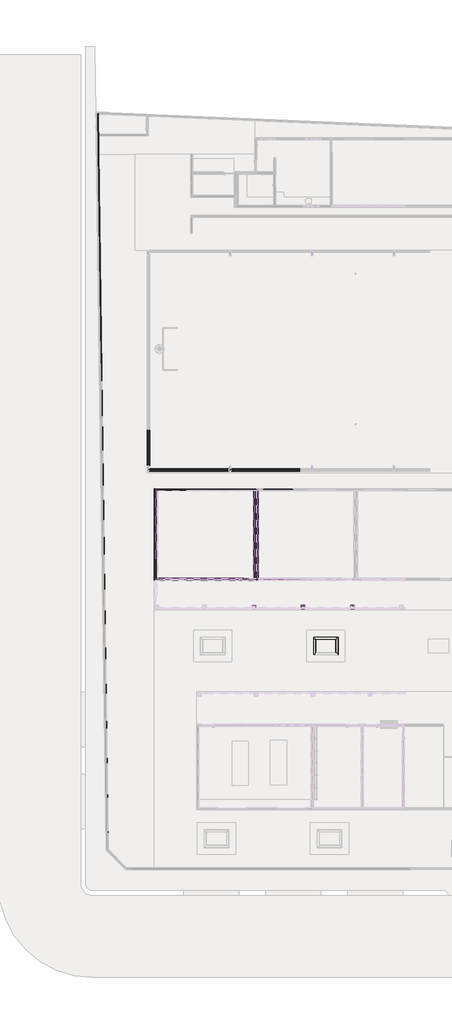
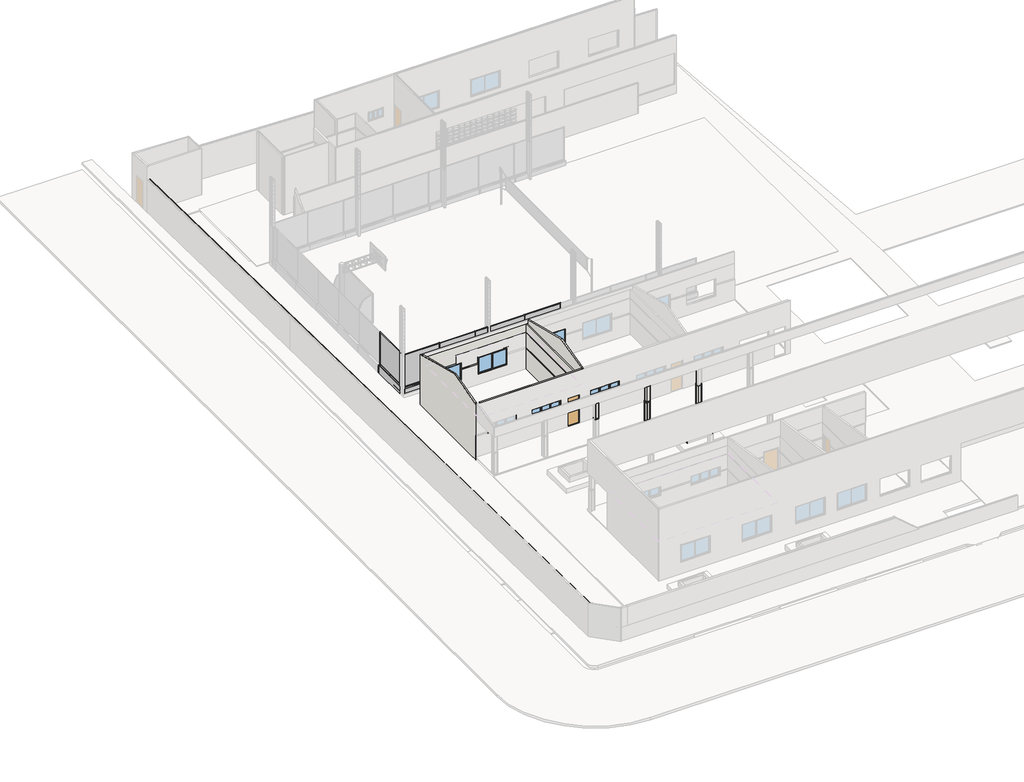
# One storey, part 7 of 28: 58 walls, 6 plates, 5 windows, 2 doors.
"""IFC4 building model written with IfcOpenShell, lengths in millimetres."""

from ifc_helpers import new_model, si_unit, frame, origin, origin_with_axes, place, context, project, spatial, polyline, outline, extrude, faceted_brep, transform, mapped, element, save
from components import door_29174598, pf15_l82cm_5bfc7586, plate_c8864c2c, plate_0e4e2798, window_2x1_20x1x10_9e9748dd, window_2x60x220_bcaba8dd

model = new_model("IFC4")

# Units and contexts
model_context = context("Model", 3, world=origin())
ifc_project = project(units=[si_unit("LENGTHUNIT", "METRE", prefix="MILLI")], contexts=[model_context])

# Site, building, storey
site = spatial("IfcSite", under=ifc_project)
building = spatial("IfcBuilding", under=site)
storey = spatial("IfcBuildingStorey", under=building, Name="Térreo", Elevation=0.0)

# Doors
placement = place(None, origin())
door_shape = door_29174598(model_context)
element("IfcDoor", 1, ObjectType="FDE_SO_Soleiras1 : SO14_SoleiraRampadaDesnívelAté2cm_L=14cm_Cimentado 2", at=placement, inside=storey, context=model_context, shape_type="MappedRepresentation", body=[
    mapped(door_shape, transform((-51387.0, 21250.0, 200.0), x_axis=(1.0, 0.0, 0.0), y_axis=(0.0, 1.0, 0.0), z_axis=(0.0, 0.0, 1.0))),
])
pf15_l82cm_shape = pf15_l82cm_5bfc7586(model_context)
element("IfcDoor", 2, ObjectType="FDE_PF15_PF16_PF17_PortaemChapadeFerro : PF15_L82cm", at=placement, inside=storey, context=model_context, shape_type="MappedRepresentation", body=[
    mapped(pf15_l82cm_shape, transform((-51387.0, 21255.0, 200.0), x_axis=(1.0, 0.0, 0.0), y_axis=(0.0, 1.0, 0.0), z_axis=(0.0, 0.0, 1.0))),
])

# Plates
plate_shape = plate_c8864c2c(model_context)
element("IfcPlate", 3, ObjectType="FDE_FQ01_FechamentoParaQuadradeEsportes : FQ01_LateraisSapata", at=placement, inside=storey, context=model_context, shape_type="MappedRepresentation", body=[
    mapped(plate_shape, transform((-58665.0, 30818.7010512, -350.0), x_axis=(0.0, 1.0, 0.0), y_axis=(-1.0, 0.0, 0.0), z_axis=(0.0, 0.0, 1.0))),
])
element("IfcPlate", 4, ObjectType="FDE_FQ01_FechamentoParaQuadradeEsportes : FQ01_LateraisSapata", at=placement, inside=storey, context=model_context, shape_type="MappedRepresentation", body=[
    mapped(plate_shape, transform((-57379.9999998, 29253.7010511, -350.0), x_axis=(1.0, 0.0, 0.0), y_axis=(0.0, 1.0, 0.0), z_axis=(0.0, 0.0, 1.0))),
])
element("IfcPlate", 5, ObjectType="FDE_FQ01_FechamentoParaQuadradeEsportes : FQ01_LateraisSapata", at=placement, inside=storey, context=model_context, shape_type="MappedRepresentation", body=[
    mapped(plate_shape, transform((-54879.9999997, 29253.7010511, -350.0), x_axis=(1.0, 0.0, 0.0), y_axis=(0.0, 1.0, 0.0), z_axis=(0.0, 0.0, 1.0))),
])
element("IfcPlate", 6, ObjectType="FDE_FQ01_FechamentoParaQuadradeEsportes : FQ01_LateraisSapata", at=placement, inside=storey, context=model_context, shape_type="MappedRepresentation", body=[
    mapped(plate_shape, transform((-51414.9999998, 29253.7010511, -350.0), x_axis=(1.0, 0.0, 0.0), y_axis=(0.0, 1.0, 0.0), z_axis=(0.0, 0.0, 1.0))),
])
element("IfcPlate", 7, ObjectType="FDE_FQ01_FechamentoParaQuadradeEsportes : FQ01_LateraisSapata", at=placement, inside=storey, context=model_context, shape_type="MappedRepresentation", body=[
    mapped(plate_shape, transform((-48914.9999997, 29253.7010511, -350.0), x_axis=(1.0, 0.0, 0.0), y_axis=(0.0, 1.0, 0.0), z_axis=(0.0, 0.0, 1.0))),
])
plate_2_shape = plate_0e4e2798(model_context)
element("IfcPlate", 8, ObjectType="FDE_FQ01_FechamentoParaQuadradeEsportes : FQ01_LateraisSapata", at=placement, inside=storey, context=model_context, shape_type="MappedRepresentation", body=[
    mapped(plate_2_shape, transform((-53189.9999998, 29253.7010511, -350.0), x_axis=(1.0, 0.0, 0.0), y_axis=(0.0, 1.0, 0.0), z_axis=(0.0, 0.0, 1.0))),
])

# Walls
element("IfcWall", 9, ObjectType="FDE_S712_AlvenariadeTijoloCerâmico/Baiano_Alvenaria_9cm - Existente", at=placement, inside=storey, context=model_context, shape_type="Brep", body=[
    faceted_brep([(-58130.0, 21210.0, 3500.0), (-58130.0, 21210.0, 0.0), (-58130.0, 21300.0, 0.0), (-58130.0, 27780.0, 0.0), (-58130.0, 27870.0, 0.0), (-58130.0, 27870.0, 3500.0), (-58130.0, 27780.0, 3500.0), (-58130.0, 21300.0, 3500.0), (-58220.0, 21210.0, 0.0), (-58220.0, 21210.0, 3500.0), (-58220.0, 27870.0, 3500.0), (-58220.0, 27870.0, 0.0)], [[[0, 1, 2, 3, 4, 5, 6, 7]], [[8, 9, 10, 11]], [[4, 3, 2, 1, 8, 11]], [[0, 7, 6, 5, 10, 9]], [[5, 4, 11, 10]], [[0, 9, 8, 1]]]),
])
element("IfcWall", 10, ObjectType="FDE_S712_AlvenariadeTijoloCerâmico/Baiano_Alvenaria_9cm - Existente", at=placement, inside=storey, context=model_context, shape_type="Brep", body=[
    faceted_brep([(-58130.0, 27780.0, 0.0), (-50920.0, 27780.0, 0.0), (-50830.0, 27780.0, 0.0), (-50830.0, 27780.0, 3500.0), (-50920.0, 27780.0, 3500.0), (-58130.0, 27780.0, 3500.0), (-54315.0, 27780.0, 965.0), (-54315.0, 27780.0, 2235.0), (-52245.0, 27780.0, 2235.0), (-52245.0, 27780.0, 965.0), (-57515.0, 27780.0, 965.0), (-57515.0, 27780.0, 2235.0), (-55445.0, 27780.0, 2235.0), (-55445.0, 27780.0, 965.0), (-50830.0, 27870.0, 0.0), (-58130.0, 27870.0, 0.0), (-58130.0, 27870.0, 3500.0), (-50830.0, 27870.0, 3500.0), (-54315.0, 27870.0, 2235.0), (-54315.0, 27870.0, 965.0), (-52245.0, 27870.0, 965.0), (-52245.0, 27870.0, 2235.0), (-57515.0, 27870.0, 2235.0), (-57515.0, 27870.0, 965.0), (-55445.0, 27870.0, 965.0), (-55445.0, 27870.0, 2235.0)], [[[0, 1, 2, 3, 4, 5], [6, 7, 8, 9], [10, 11, 12, 13]], [[14, 15, 16, 17], [18, 19, 20, 21], [22, 23, 24, 25]], [[2, 1, 0, 15, 14]], [[5, 4, 3, 17, 16]], [[3, 2, 14, 17]], [[5, 16, 15, 0]], [[6, 19, 18, 7]], [[7, 18, 21, 8]], [[8, 21, 20, 9]], [[19, 6, 9, 20]], [[10, 23, 22, 11]], [[11, 22, 25, 12]], [[12, 25, 24, 13]], [[23, 10, 13, 24]]]),
])
element("IfcWall", 11, ObjectType="FDE_S712_AlvenariadeTijoloCerâmico/Baiano_Alvenaria_9cm - Existente", at=placement, inside=storey, context=model_context, shape_type="Brep", body=[
    faceted_brep([(-50920.0, 27780.0, 0.0), (-50920.0, 21300.0, 0.0), (-50920.0, 21210.0, 0.0), (-50920.0, 21210.0, 3500.0), (-50920.0, 21300.0, 3500.0), (-50920.0, 27780.0, 3500.0), (-50830.0, 27780.0, 0.0), (-50830.0, 27780.0, 3500.0), (-50830.0, 21300.0, 3500.0), (-50830.0, 21210.0, 3500.0), (-50830.0, 21210.0, 0.0), (-50830.0, 21300.0, 0.0)], [[[0, 1, 2, 3, 4, 5]], [[6, 7, 8, 9, 10, 11]], [[2, 1, 0, 6, 11, 10]], [[5, 4, 3, 9, 8, 7]], [[3, 2, 10, 9]], [[0, 5, 7, 6]]]),
])
element("IfcWall", 12, ObjectType="FDE_S712_AlvenariadeTijoloCerâmico/Baiano_Alvenaria_9cm - Existente", at=placement, inside=storey, context=model_context, shape_type="Brep", body=[
    faceted_brep([(-50920.0, 21300.0, 0.0), (-58130.0, 21300.0, 0.0), (-58130.0, 21300.0, 1824.9435125), (-58130.0, 21300.0, 2900.0), (-58130.0, 21300.0, 3500.0), (-50920.0, 21300.0, 3500.0), (-50970.0, 21300.0, 200.0), (-50970.0, 21300.0, 1824.9435125), (-50970.0, 21300.0, 2312.0), (-51804.0, 21300.0, 2312.0), (-51804.0, 21300.0, 1824.9435125), (-51804.0, 21300.0, 200.0), (-52269.0, 21300.0, 1665.0), (-52269.0, 21300.0, 1824.9435125), (-52269.0, 21300.0, 2335.0), (-54339.0, 21300.0, 2335.0), (-54339.0, 21300.0, 1824.9435125), (-54339.0, 21300.0, 1665.0), (-55415.0, 21300.0, 1665.0), (-55415.0, 21300.0, 1824.9435125), (-55415.0, 21300.0, 2335.0), (-57485.0, 21300.0, 2335.0), (-57485.0, 21300.0, 1824.9435125), (-57485.0, 21300.0, 1665.0), (-58130.0, 21210.0, 0.0), (-50920.0, 21210.0, 0.0), (-50920.0, 21210.0, 3500.0), (-58130.0, 21210.0, 3500.0), (-50970.0, 21210.0, 2312.0), (-50970.0, 21210.0, 1824.9435125), (-50970.0, 21210.0, 200.0), (-51804.0, 21210.0, 200.0), (-51804.0, 21210.0, 1824.9435125), (-51804.0, 21210.0, 2312.0), (-52269.0, 21210.0, 2335.0), (-52269.0, 21210.0, 1824.9435125), (-52269.0, 21210.0, 1665.0), (-54339.0, 21210.0, 1665.0), (-54339.0, 21210.0, 1824.9435125), (-54339.0, 21210.0, 2335.0), (-55415.0, 21210.0, 2335.0), (-55415.0, 21210.0, 1824.9435125), (-55415.0, 21210.0, 1665.0), (-57485.0, 21210.0, 1665.0), (-57485.0, 21210.0, 1824.9435125), (-57485.0, 21210.0, 2335.0)], [[[0, 1, 2, 3, 4, 5], [6, 7, 8, 9, 10, 11], [12, 13, 14, 15, 16, 17], [18, 19, 20, 21, 22, 23]], [[24, 25, 26, 27], [28, 29, 30, 31, 32, 33], [34, 35, 36, 37, 38, 39], [40, 41, 42, 43, 44, 45]], [[1, 0, 25, 24]], [[5, 4, 27, 26]], [[0, 5, 26, 25]], [[6, 30, 29, 28, 8, 7]], [[8, 28, 33, 9]], [[9, 33, 32, 31, 11, 10]], [[30, 6, 11, 31]], [[34, 14, 13, 12, 36, 35]], [[14, 34, 39, 15]], [[15, 39, 38, 37, 17, 16]], [[17, 37, 36, 12]], [[18, 42, 41, 40, 20, 19]], [[20, 40, 45, 21]], [[21, 45, 44, 43, 23, 22]], [[42, 18, 23, 43]], [[1, 24, 27, 4, 3, 2]]]),
])
element("IfcWall", 13, ObjectType="FDE_S712_AlvenariadeTijoloCerâmico/Baiano_Alvenaria_9cm - Existente", at=placement, inside=storey, context=model_context, shape_type="Brep", body=[
    faceted_brep([(-50680.0, 21210.0, 0.0), (-50680.0, 21300.0, 0.0), (-50680.0, 21330.0, 0.0), (-50680.0, 27779.9999994, 0.0), (-50680.0, 27779.9999994, 3767.0080278), (-50680.0, 23811.6315073, 4759.1001508), (-50680.0, 21300.0, 4131.192274), (-50680.0, 21210.0, 4108.692274), (-50770.0, 21210.0, 0.0), (-50770.0, 21210.0, 4108.692274), (-50770.0, 21300.0, 4131.192274), (-50770.0, 23811.6315073, 4759.1001508), (-50770.0, 27779.9999994, 3767.0080278), (-50770.0, 27779.9999994, 0.0), (-50770.0, 21300.0, 0.0)], [[[0, 1, 2, 3, 4, 5, 6, 7]], [[8, 9, 10, 11, 12, 13, 14]], [[3, 2, 1, 0, 8, 14, 13]], [[4, 3, 13, 12]], [[0, 7, 9, 8]], [[7, 6, 5, 11, 10, 9]], [[5, 4, 12, 11]]]),
])
element("IfcWall", 14, ObjectType="FDE_S712_AlvenariadeTijoloCerâmico/Baiano_Alvenaria_9cm - Existente", at=placement, inside=storey, context=model_context, shape_type="SweptSolid", body=[
    extrude(outline(polyline([(21330.0, 0.0), (21330.0, 4138.692274), (23811.6315073, 4759.1001508), (27780.0, 3767.0080277), (27780.0, 0.0), (21330.0, 0.0)])), frame((-58220.0, 0.0, 0.0), z_axis=(1.0, 0.0, 0.0), x_axis=(0.0, 1.0, 0.0)), (0.0, 0.0, 1.0), 90.0),
])
element("IfcWall", 15, ObjectType="FDE_S712_AlvenariadeTijoloCerâmico/Baiano_Alvenaria_9cm - Existente", at=placement, inside=storey, context=model_context, shape_type="Brep", body=[
    faceted_brep([(-50770.0, 21300.0, 0.0), (-57950.0, 21300.0, 0.0), (-57950.0, 21300.0, 4131.192274), (-50770.0, 21300.0, 4131.192274), (-50770.0, 21300.0, 1824.9435125), (-50770.0, 21300.0, 1731.0528047), (-50770.0, 21300.0, 220.0), (-50970.0, 21300.0, 200.0), (-50970.0, 21300.0, 220.0), (-50970.0, 21300.0, 1731.0528047), (-50970.0, 21300.0, 1824.9435125), (-50970.0, 21300.0, 2312.0), (-51804.0, 21300.0, 2312.0), (-51804.0, 21300.0, 1824.9435125), (-51804.0, 21300.0, 1731.0528047), (-51804.0, 21300.0, 220.0), (-51804.0, 21300.0, 200.0), (-52269.0, 21300.0, 1665.0), (-52269.0, 21300.0, 1731.0528047), (-52269.0, 21300.0, 1824.9435125), (-52269.0, 21300.0, 2335.0), (-54339.0, 21300.0, 2335.0), (-54339.0, 21300.0, 1824.9435125), (-54339.0, 21300.0, 1731.0528047), (-54339.0, 21300.0, 1665.0), (-55415.0, 21300.0, 1665.0), (-55415.0, 21300.0, 1731.0528047), (-55415.0, 21300.0, 1824.9435125), (-55415.0, 21300.0, 2335.0), (-57485.0, 21300.0, 2335.0), (-57485.0, 21300.0, 1731.0528047), (-57485.0, 21300.0, 1665.0), (-57950.0, 21210.0, 0.0), (-50770.0, 21210.0, 0.0), (-50770.0, 21210.0, 4108.692274), (-57950.0, 21210.0, 4108.692274), (-52269.0, 21210.0, 1665.0), (-54339.0, 21210.0, 1665.0), (-54339.0, 21210.0, 1731.0528047), (-54339.0, 21210.0, 1824.9435125), (-54339.0, 21210.0, 2335.0), (-52269.0, 21210.0, 2335.0), (-52269.0, 21210.0, 1824.9435125), (-52269.0, 21210.0, 1731.0528047), (-55415.0, 21210.0, 1665.0), (-57485.0, 21210.0, 1665.0), (-57485.0, 21210.0, 1731.0528047), (-57485.0, 21210.0, 1824.9435125), (-57485.0, 21210.0, 2335.0), (-55415.0, 21210.0, 2335.0), (-55415.0, 21210.0, 1824.9435125), (-55415.0, 21210.0, 1731.0528047), (-50970.0, 21210.0, 2312.0), (-50970.0, 21210.0, 1824.9435125), (-50970.0, 21210.0, 1731.0528047), (-50970.0, 21210.0, 200.0), (-51804.0, 21210.0, 200.0), (-51804.0, 21210.0, 1731.0528047), (-51804.0, 21210.0, 1824.9435125), (-51804.0, 21210.0, 2312.0)], [[[0, 1, 2, 3, 4, 5, 6], [7, 8, 9, 10, 11, 12, 13, 14, 15, 16], [17, 18, 19, 20, 21, 22, 23, 24], [25, 26, 27, 28, 29, 30, 31]], [[32, 33, 34, 35], [36, 37, 38, 39, 40, 41, 42, 43], [44, 45, 46, 47, 48, 49, 50, 51], [52, 53, 54, 55, 56, 57, 58, 59]], [[1, 0, 33, 32]], [[2, 1, 32, 35]], [[0, 6, 5, 4, 3, 34, 33]], [[7, 55, 54, 53, 52, 11, 10, 9, 8]], [[11, 52, 59, 12]], [[12, 59, 58, 57, 56, 16, 15, 14, 13]], [[55, 7, 16, 56]], [[20, 19, 18, 17, 36, 43, 42, 41]], [[21, 20, 41, 40]], [[24, 23, 22, 21, 40, 39, 38, 37]], [[17, 24, 37, 36]], [[28, 27, 26, 25, 44, 51, 50, 49]], [[29, 28, 49, 48]], [[31, 30, 29, 48, 47, 46, 45]], [[25, 31, 45, 44]], [[3, 2, 35, 34]]]),
])
element("IfcWall", 16, ObjectType="FDE_S713_AlvenariadeTijoloLaminadoaVista_Alvenaria_1/2TijoloAlternado_11,5cm", at=placement, inside=storey, context=model_context, shape_type="Brep", body=[
    faceted_brep([(-46568.4525547, 16895.1451949, 100.0), (-46568.4525547, 15752.1451949, 100.0), (-46568.4525547, 15752.1451949, 800.0), (-46568.4525547, 16895.1451949, 800.0), (-46568.4525547, 16895.1451949, 179.0468845), (-46453.4525547, 16895.1451949, 100.0), (-46453.4525547, 16895.1451949, 800.0), (-46453.4525547, 15867.1451949, 800.0), (-46453.4525547, 15752.1451949, 800.0), (-46453.4525547, 15752.1451949, 100.0)], [[[0, 1, 2, 3, 4]], [[5, 6, 7, 8, 9]], [[1, 0, 5, 9]], [[3, 2, 8, 7, 6]], [[2, 1, 9, 8]], [[0, 4, 3, 6, 5]]]),
])
element("IfcWall", 17, ObjectType="FDE_S713_AlvenariadeTijoloLaminadoaVista_Alvenaria_1/2TijoloAlternado_11,5cm", at=placement, inside=storey, context=model_context, shape_type="Brep", body=[
    faceted_brep([(-44810.4525547, 15867.1451949, 100.0), (-44810.4525547, 17010.1451949, 100.0), (-44810.4525547, 17010.1451949, 800.0), (-44810.4525547, 15867.1451949, 800.0), (-44925.4525547, 15867.1451949, 100.0), (-44925.4525547, 15867.1451949, 800.0), (-44925.4525547, 16895.1451949, 800.0), (-44925.4525547, 17010.1451949, 800.0), (-44925.4525547, 17010.1451949, 179.0468845), (-44925.4525547, 17010.1451949, 100.0)], [[[0, 1, 2, 3]], [[4, 5, 6, 7, 8, 9]], [[1, 0, 4, 9]], [[3, 2, 7, 6, 5]], [[2, 1, 9, 8, 7]], [[0, 3, 5, 4]]]),
])
element("IfcWall", 18, ObjectType="FDE_S713_AlvenariadeTijoloLaminadoaVista_Alvenaria_1/2TijoloAlternado_11,5cm", at=placement, inside=storey, context=model_context, shape_type="Brep", body=[
    faceted_brep([(-44925.4525547, 17010.1451949, 179.0468845), (-46568.4525547, 17010.1451949, 179.0468845), (-46568.4525547, 17010.1451949, 800.0), (-44925.4525547, 17010.1451949, 800.0), (-44925.4525547, 16895.1451949, 179.0468845), (-44925.4525547, 16895.1451949, 800.0), (-46453.4525547, 16895.1451949, 800.0), (-46568.4525547, 16895.1451949, 800.0), (-46568.4525547, 16895.1451949, 179.0468845)], [[[0, 1, 2, 3]], [[4, 5, 6, 7, 8]], [[1, 0, 4, 8]], [[3, 2, 7, 6, 5]], [[2, 1, 8, 7]], [[0, 3, 5, 4]]]),
])
element("IfcWall", 19, ObjectType="Pintura Externa - Tinta Acrílica Verbrás  Verde Água", at=placement, inside=storey, context=model_context, shape_type="Brep", body=[
    faceted_brep([(-58220.0, 21180.0, 1824.9435125), (-58220.0, 21180.0, 1731.0528047), (-58220.0, 21180.0, 0.0), (-58220.0, 21210.0, 0.0), (-58220.0, 21330.0, 0.0), (-58220.0, 27780.0, 0.0), (-58220.0, 27869.9999994, 0.0), (-58220.0, 27899.9999994, 0.0), (-58220.0, 27899.9999994, 3737.0080278), (-58220.0, 27780.0, 3767.0080277), (-58220.0, 23811.6315073, 4759.1001508), (-58220.0, 21330.0, 4138.692274), (-58220.0, 21210.0, 4108.692274), (-58220.0, 21189.0, 4103.442274), (-58220.0, 21189.0, 1824.9435125), (-58250.0, 21180.0, 0.0), (-58250.0, 21180.0, 1824.9435125), (-58250.0, 21189.0, 1824.9435125), (-58250.0, 21189.0, 4103.442274), (-58250.0, 23811.6315073, 4759.1001508), (-58250.0, 27899.9999994, 3737.0080278), (-58250.0, 27899.9999994, 0.0)], [[[0, 1, 2, 3, 4, 5, 6, 7, 8, 9, 10, 11, 12, 13, 14]], [[15, 16, 17, 18, 19, 20, 21]], [[7, 6, 5, 4, 3, 2, 15, 21]], [[8, 7, 21, 20]], [[13, 12, 11, 10, 19, 18]], [[10, 9, 8, 20, 19]], [[14, 17, 16, 0]], [[0, 16, 15, 2, 1]], [[14, 13, 18, 17]]]),
])
element("IfcWall", 20, ObjectType="Revestimento Cerâmico 10x10cm", at=placement, inside=storey, context=model_context, shape_type="SweptSolid", body=[
    extrude(outline(polyline([(-50650.0, 27749.9999994), (-50650.0, 21330.0), (-50680.0, 21330.0), (-50680.0, 27749.9999994), (-50650.0, 27749.9999994)])), frame((0.0, 0.0, 220.0), z_axis=(0.0, 0.0, 1.0), x_axis=(1.0, 0.0, 0.0)), (0.0, 0.0, 1.0), 1511.0528047),
])
element("IfcWall", 21, ObjectType="Faixa - Revestimento Cerâmico Verde Folha 10x10cm", at=placement, inside=storey, context=model_context, shape_type="Brep", body=[
    faceted_brep([(-50680.0, 27749.9999994, 1824.9435125), (-50680.0, 27749.9999994, 1731.0528047), (-50650.0, 27749.9999994, 1731.0528047), (-50215.0, 27749.9999994, 1731.0528047), (-50215.0, 27749.9999994, 1824.9435125), (-50650.0, 27749.9999994, 1824.9435125), (-50680.0, 27779.9999994, 1731.0528047), (-50680.0, 27779.9999994, 1824.9435125), (-50215.0, 27779.9999994, 1824.9435125), (-50215.0, 27779.9999994, 1731.0528047)], [[[0, 1, 2, 3, 4, 5]], [[6, 7, 8, 9]], [[1, 6, 9, 3, 2]], [[7, 0, 5, 4, 8]], [[1, 0, 7, 6]], [[4, 3, 9, 8]]]),
])
element("IfcWall", 22, ObjectType="Faixa - Revestimento Cerâmico Verde Folha 10x10cm", at=placement, inside=storey, context=model_context, shape_type="Brep", body=[
    faceted_brep([(-50650.0, 21330.0, 1731.0528047), (-50650.0, 27749.9999994, 1731.0528047), (-50650.0, 27749.9999994, 1824.9435125), (-50650.0, 21330.0, 1824.9435125), (-50680.0, 21330.0, 1731.0528047), (-50680.0, 21330.0, 1824.9435125), (-50680.0, 27748.9999994, 1824.9435125), (-50680.0, 27749.9999994, 1824.9435125), (-50680.0, 27749.9999994, 1731.0528047)], [[[0, 1, 2, 3]], [[4, 5, 6, 7, 8]], [[1, 0, 4, 8]], [[3, 2, 7, 6, 5]], [[2, 1, 8, 7]], [[0, 3, 5, 4]]]),
])
element("IfcWall", 23, ObjectType="Pardes Internas_Pintura Acrílica Branco Neve 2", at=placement, inside=storey, context=model_context, shape_type="Brep", body=[
    faceted_brep([(-50649.0, 21300.0, 1824.9435125), (-50649.0, 21331.0, 1824.9435125), (-50649.0, 27748.9999994, 1824.9435125), (-50649.0, 27748.9999994, 2900.0), (-50649.0, 21300.0, 2900.0), (-50680.0, 21300.0, 1824.9435125), (-50680.0, 21300.0, 2900.0), (-50680.0, 27748.9999994, 2900.0), (-50680.0, 27748.9999994, 1824.9435125)], [[[0, 1, 2, 3, 4]], [[5, 6, 7, 8]], [[2, 1, 0, 5, 8]], [[4, 3, 7, 6]], [[3, 2, 8, 7]], [[0, 4, 6, 5]]]),
])
element("IfcWall", 24, ObjectType="Faixa - Revestimento Cerâmico Verde Folha 10x10cm", at=placement, inside=storey, context=model_context, shape_type="SweptSolid", body=[
    extrude(outline(polyline([(-50970.0, 21180.0), (-50970.0, 21210.0), (-50215.0, 21210.0), (-50215.0, 21180.0), (-50970.0, 21180.0)])), frame((0.0, 0.0, 1731.0528047), z_axis=(0.0, 0.0, 1.0), x_axis=(1.0, 0.0, 0.0)), (0.0, 0.0, 1.0), 93.8907079),
    extrude(outline(polyline([(-51804.0, 21210.0), (-51804.0, 21180.0), (-52269.0, 21180.0), (-52269.0, 21210.0), (-51804.0, 21210.0)])), frame((0.0, 0.0, 1731.0528047), z_axis=(0.0, 0.0, 1.0), x_axis=(1.0, 0.0, 0.0)), (0.0, 0.0, 1.0), 93.8907079),
])
element("IfcWall", 25, ObjectType="Faixa - Revestimento Cerâmico Verde Folha 10x10cm", at=placement, inside=storey, context=model_context, shape_type="SweptSolid", body=[
    extrude(outline(polyline([(-54339.0, 21210.0), (-54339.0, 21180.0), (-55415.0, 21180.0), (-55415.0, 21210.0), (-54339.0, 21210.0)])), frame((0.0, 0.0, 1731.0528047), z_axis=(0.0, 0.0, 1.0), x_axis=(1.0, 0.0, 0.0)), (0.0, 0.0, 1.0), 93.8907079),
])
element("IfcWall", 26, ObjectType="Pardes Externas_Pintura Acrílica Branco Neve", at=placement, inside=storey, context=model_context, shape_type="Brep", body=[
    faceted_brep([(-43871.0, 19330.0, 1794.0), (-43850.0, 19330.0, 1794.0), (-43650.0, 19330.0, 1794.0), (-43629.0, 19330.0, 1794.0), (-43629.0, 19330.0, 2900.0), (-43650.0, 19330.0, 2900.0), (-43850.0, 19330.0, 2900.0), (-43871.0, 19330.0, 2900.0), (-43871.0, 19351.0, 1794.0), (-43871.0, 19351.0, 2900.0), (-43629.0, 19351.0, 2900.0), (-43629.0, 19351.0, 1794.0)], [[[0, 1, 2, 3, 4, 5, 6, 7]], [[8, 9, 10, 11]], [[3, 2, 1, 0, 8, 11]], [[7, 6, 5, 4, 10, 9]], [[0, 7, 9, 8]], [[4, 3, 11, 10]]]),
])
element("IfcWall", 27, ObjectType="Revestimento Cerâmico 10x10cm", at=placement, inside=storey, context=model_context, shape_type="Brep", body=[
    faceted_brep([(-43880.0, 19330.0, 194.0), (-43850.0, 19330.0, 194.0), (-43650.0, 19330.0, 194.0), (-43620.0, 19330.0, 194.0), (-43620.0, 19330.0, 1694.0), (-43650.0, 19330.0, 1694.0), (-43850.0, 19330.0, 1694.0), (-43880.0, 19330.0, 1694.0), (-43880.0, 19360.0, 194.0), (-43880.0, 19360.0, 1694.0), (-43620.0, 19360.0, 1694.0), (-43620.0, 19360.0, 194.0)], [[[0, 1, 2, 3, 4, 5, 6, 7]], [[8, 9, 10, 11]], [[3, 2, 1, 0, 8, 11]], [[7, 6, 5, 4, 10, 9]], [[0, 7, 9, 8]], [[4, 3, 11, 10]]]),
])
element("IfcWall", 28, ObjectType="Revestimento Cerâmico 10x10cm", at=placement, inside=storey, context=model_context, shape_type="Brep", body=[
    faceted_brep([(-43850.0, 19100.0, 194.0), (-43850.0, 19130.0, 194.0), (-43850.0, 19330.0, 194.0), (-43850.0, 19330.0, 1694.0), (-43850.0, 19130.0, 1694.0), (-43850.0, 19100.0, 1694.0), (-43880.0, 19100.0, 194.0), (-43880.0, 19100.0, 1694.0), (-43880.0, 19330.0, 1694.0), (-43880.0, 19330.0, 194.0)], [[[0, 1, 2, 3, 4, 5]], [[6, 7, 8, 9]], [[2, 1, 0, 6, 9]], [[5, 4, 3, 8, 7]], [[3, 2, 9, 8]], [[0, 5, 7, 6]]]),
])
element("IfcWall", 29, ObjectType="Revestimento Cerâmico 10x10cm", at=placement, inside=storey, context=model_context, shape_type="Brep", body=[
    faceted_brep([(-43650.0, 19330.0, 194.0), (-43650.0, 19130.0, 194.0), (-43650.0, 19100.0, 194.0), (-43650.0, 19100.0, 1694.0), (-43650.0, 19130.0, 1694.0), (-43650.0, 19330.0, 1694.0), (-43620.0, 19330.0, 194.0), (-43620.0, 19330.0, 1694.0), (-43620.0, 19100.0, 1694.0), (-43620.0, 19100.0, 194.0)], [[[0, 1, 2, 3, 4, 5]], [[6, 7, 8, 9]], [[2, 1, 0, 6, 9]], [[5, 4, 3, 8, 7]], [[0, 5, 7, 6]], [[3, 2, 9, 8]]]),
])
element("IfcWall", 30, ObjectType="Revestimento Cerâmico 10x10cm", at=placement, inside=storey, context=model_context, shape_type="SweptSolid", body=[
    extrude(outline(polyline([(-43650.0, 19100.0), (-43850.0, 19100.0), (-43850.0, 19130.0), (-43650.0, 19130.0), (-43650.0, 19100.0)])), frame((0.0, 0.0, 194.0), z_axis=(0.0, 0.0, 1.0), x_axis=(1.0, 0.0, 0.0)), (0.0, 0.0, 1.0), 1500.0),
])
element("IfcWall", 31, ObjectType="Faixa - Revestimento Cerâmico Verde Folha 10x10cm", at=placement, inside=storey, context=model_context, shape_type="Brep", body=[
    faceted_brep([(-43880.0, 19330.0, 1694.0), (-43850.0, 19330.0, 1694.0), (-43650.0, 19330.0, 1694.0), (-43620.0, 19330.0, 1694.0), (-43620.0, 19330.0, 1794.0), (-43650.0, 19330.0, 1794.0), (-43850.0, 19330.0, 1794.0), (-43880.0, 19330.0, 1794.0), (-43880.0, 19360.0, 1694.0), (-43880.0, 19360.0, 1794.0), (-43620.0, 19360.0, 1794.0), (-43620.0, 19360.0, 1694.0)], [[[0, 1, 2, 3, 4, 5, 6, 7]], [[8, 9, 10, 11]], [[3, 2, 1, 0, 8, 11]], [[7, 6, 5, 4, 10, 9]], [[4, 3, 11, 10]], [[0, 7, 9, 8]]]),
])
element("IfcWall", 32, ObjectType="Faixa - Revestimento Cerâmico Verde Folha 10x10cm", at=placement, inside=storey, context=model_context, shape_type="Brep", body=[
    faceted_brep([(-43650.0, 19330.0, 1694.0), (-43650.0, 19130.0, 1694.0), (-43650.0, 19100.0, 1694.0), (-43650.0, 19100.0, 1794.0), (-43650.0, 19130.0, 1794.0), (-43650.0, 19330.0, 1794.0), (-43620.0, 19330.0, 1694.0), (-43620.0, 19330.0, 1794.0), (-43620.0, 19100.0, 1794.0), (-43620.0, 19100.0, 1694.0)], [[[0, 1, 2, 3, 4, 5]], [[6, 7, 8, 9]], [[2, 1, 0, 6, 9]], [[5, 4, 3, 8, 7]], [[0, 5, 7, 6]], [[3, 2, 9, 8]]]),
])
element("IfcWall", 33, ObjectType="Pardes Externas_Pintura Acrílica Branco Neve", at=placement, inside=storey, context=model_context, shape_type="Brep", body=[
    faceted_brep([(-47471.0, 19330.0, 1794.0), (-47450.0, 19330.0, 1794.0), (-47250.0, 19330.0, 1794.0), (-47229.0, 19330.0, 1794.0), (-47229.0, 19330.0, 2900.0), (-47250.0, 19330.0, 2900.0), (-47450.0, 19330.0, 2900.0), (-47471.0, 19330.0, 2900.0), (-47471.0, 19351.0, 1794.0), (-47471.0, 19351.0, 2900.0), (-47229.0, 19351.0, 2900.0), (-47229.0, 19351.0, 1794.0)], [[[0, 1, 2, 3, 4, 5, 6, 7]], [[8, 9, 10, 11]], [[3, 2, 1, 0, 8, 11]], [[7, 6, 5, 4, 10, 9]], [[0, 7, 9, 8]], [[4, 3, 11, 10]]]),
])
element("IfcWall", 34, ObjectType="Revestimento Cerâmico 10x10cm", at=placement, inside=storey, context=model_context, shape_type="Brep", body=[
    faceted_brep([(-47480.0, 19330.0, 194.0), (-47450.0, 19330.0, 194.0), (-47250.0, 19330.0, 194.0), (-47220.0, 19330.0, 194.0), (-47220.0, 19330.0, 1694.0), (-47250.0, 19330.0, 1694.0), (-47450.0, 19330.0, 1694.0), (-47480.0, 19330.0, 1694.0), (-47480.0, 19360.0, 194.0), (-47480.0, 19360.0, 1694.0), (-47220.0, 19360.0, 1694.0), (-47220.0, 19360.0, 194.0)], [[[0, 1, 2, 3, 4, 5, 6, 7]], [[8, 9, 10, 11]], [[3, 2, 1, 0, 8, 11]], [[7, 6, 5, 4, 10, 9]], [[0, 7, 9, 8]], [[4, 3, 11, 10]]]),
])
element("IfcWall", 35, ObjectType="Revestimento Cerâmico 10x10cm", at=placement, inside=storey, context=model_context, shape_type="Brep", body=[
    faceted_brep([(-47450.0, 19100.0, 194.0), (-47450.0, 19130.0, 194.0), (-47450.0, 19330.0, 194.0), (-47450.0, 19330.0, 1694.0), (-47450.0, 19130.0, 1694.0), (-47450.0, 19100.0, 1694.0), (-47480.0, 19100.0, 194.0), (-47480.0, 19100.0, 1694.0), (-47480.0, 19330.0, 1694.0), (-47480.0, 19330.0, 194.0)], [[[0, 1, 2, 3, 4, 5]], [[6, 7, 8, 9]], [[2, 1, 0, 6, 9]], [[5, 4, 3, 8, 7]], [[3, 2, 9, 8]], [[0, 5, 7, 6]]]),
])
element("IfcWall", 36, ObjectType="Revestimento Cerâmico 10x10cm", at=placement, inside=storey, context=model_context, shape_type="Brep", body=[
    faceted_brep([(-47250.0, 19330.0, 194.0), (-47250.0, 19130.0, 194.0), (-47250.0, 19100.0, 194.0), (-47250.0, 19100.0, 1694.0), (-47250.0, 19130.0, 1694.0), (-47250.0, 19330.0, 1694.0), (-47220.0, 19330.0, 194.0), (-47220.0, 19330.0, 1694.0), (-47220.0, 19100.0, 1694.0), (-47220.0, 19100.0, 194.0)], [[[0, 1, 2, 3, 4, 5]], [[6, 7, 8, 9]], [[2, 1, 0, 6, 9]], [[5, 4, 3, 8, 7]], [[0, 5, 7, 6]], [[3, 2, 9, 8]]]),
])
element("IfcWall", 37, ObjectType="Revestimento Cerâmico 10x10cm", at=placement, inside=storey, context=model_context, shape_type="SweptSolid", body=[
    extrude(outline(polyline([(-47250.0, 19100.0), (-47450.0, 19100.0), (-47450.0, 19130.0), (-47250.0, 19130.0), (-47250.0, 19100.0)])), frame((0.0, 0.0, 194.0), z_axis=(0.0, 0.0, 1.0), x_axis=(1.0, 0.0, 0.0)), (0.0, 0.0, 1.0), 1500.0),
])
element("IfcWall", 38, ObjectType="Faixa - Revestimento Cerâmico Verde Folha 10x10cm", at=placement, inside=storey, context=model_context, shape_type="Brep", body=[
    faceted_brep([(-47480.0, 19330.0, 1694.0), (-47450.0, 19330.0, 1694.0), (-47250.0, 19330.0, 1694.0), (-47220.0, 19330.0, 1694.0), (-47220.0, 19330.0, 1794.0), (-47250.0, 19330.0, 1794.0), (-47450.0, 19330.0, 1794.0), (-47480.0, 19330.0, 1794.0), (-47480.0, 19360.0, 1694.0), (-47480.0, 19360.0, 1794.0), (-47220.0, 19360.0, 1794.0), (-47220.0, 19360.0, 1694.0)], [[[0, 1, 2, 3, 4, 5, 6, 7]], [[8, 9, 10, 11]], [[3, 2, 1, 0, 8, 11]], [[7, 6, 5, 4, 10, 9]], [[4, 3, 11, 10]], [[0, 7, 9, 8]]]),
])
element("IfcWall", 39, ObjectType="Faixa - Revestimento Cerâmico Verde Folha 10x10cm", at=placement, inside=storey, context=model_context, shape_type="Brep", body=[
    faceted_brep([(-47250.0, 19330.0, 1694.0), (-47250.0, 19130.0, 1694.0), (-47250.0, 19100.0, 1694.0), (-47250.0, 19100.0, 1794.0), (-47250.0, 19130.0, 1794.0), (-47250.0, 19330.0, 1794.0), (-47220.0, 19330.0, 1694.0), (-47220.0, 19330.0, 1794.0), (-47220.0, 19100.0, 1794.0), (-47220.0, 19100.0, 1694.0)], [[[0, 1, 2, 3, 4, 5]], [[6, 7, 8, 9]], [[2, 1, 0, 6, 9]], [[5, 4, 3, 8, 7]], [[0, 5, 7, 6]], [[3, 2, 9, 8]]]),
])
element("IfcWall", 40, ObjectType="Faixa - Revestimento Cerâmico Verde Folha 10x10cm", at=placement, inside=storey, context=model_context, shape_type="Brep", body=[
    faceted_brep([(-47480.0, 19100.0, 1694.0), (-47250.0, 19100.0, 1694.0), (-47250.0, 19100.0, 1794.0), (-47480.0, 19100.0, 1794.0), (-47480.0, 19130.0, 1694.0), (-47480.0, 19130.0, 1794.0), (-47450.0, 19130.0, 1794.0), (-47250.0, 19130.0, 1794.0), (-47250.0, 19130.0, 1694.0), (-47450.0, 19130.0, 1694.0), (-47250.0, 19109.0, 1794.0)], [[[0, 1, 2, 3]], [[4, 5, 6, 7, 8, 9]], [[1, 0, 4, 9, 8]], [[3, 2, 10, 7, 6, 5]], [[2, 1, 8, 7, 10]], [[0, 3, 5, 4]]]),
])
element("IfcWall", 41, ObjectType="Faixa - Revestimento Cerâmico Verde Folha 10x10cm", at=placement, inside=storey, context=model_context, shape_type="SweptSolid", body=[
    extrude(outline(polyline([(-47480.0, 19130.0), (-47480.0, 19330.0), (-47450.0, 19330.0), (-47450.0, 19130.0), (-47480.0, 19130.0)])), frame((0.0, 0.0, 1694.0), z_axis=(0.0, 0.0, 1.0), x_axis=(1.0, 0.0, 0.0)), (0.0, 0.0, 1.0), 100.0),
])
element("IfcWall", 42, ObjectType="Pardes Externas_Pintura Acrílica Branco Neve", at=placement, inside=storey, context=model_context, shape_type="SweptSolid", body=[
    extrude(outline(polyline([(-47250.0, 19109.0), (-47450.0, 19109.0), (-47450.0, 19130.0), (-47250.0, 19130.0), (-47250.0, 19109.0)])), frame((0.0, 0.0, 1794.0), z_axis=(0.0, 0.0, 1.0), x_axis=(1.0, 0.0, 0.0)), (0.0, 0.0, 1.0), 1106.0),
])
element("IfcWall", 43, ObjectType="Pardes Externas_Pintura Acrílica Branco Neve", at=placement, inside=storey, context=model_context, shape_type="Brep", body=[
    faceted_brep([(-47250.0, 19330.0, 1794.0), (-47250.0, 19130.0, 1794.0), (-47250.0, 19109.0, 1794.0), (-47250.0, 19109.0, 2900.0), (-47250.0, 19130.0, 2900.0), (-47250.0, 19330.0, 2900.0), (-47229.0, 19330.0, 1794.0), (-47229.0, 19330.0, 2900.0), (-47229.0, 19109.0, 2900.0), (-47229.0, 19109.0, 1794.0)], [[[0, 1, 2, 3, 4, 5]], [[6, 7, 8, 9]], [[2, 1, 0, 6, 9]], [[5, 4, 3, 8, 7]], [[3, 2, 9, 8]], [[0, 5, 7, 6]]]),
])
element("IfcWall", 44, ObjectType="Pardes Externas_Pintura Acrílica Branco Neve", at=placement, inside=storey, context=model_context, shape_type="Brep", body=[
    faceted_brep([(-47471.0, 19330.0, 1794.0), (-47471.0, 19109.0, 1794.0), (-47471.0, 19109.0, 2900.0), (-47471.0, 19330.0, 2900.0), (-47450.0, 19330.0, 1794.0), (-47450.0, 19330.0, 2900.0), (-47450.0, 19130.0, 2900.0), (-47450.0, 19109.0, 2900.0), (-47450.0, 19109.0, 1794.0), (-47450.0, 19130.0, 1794.0)], [[[0, 1, 2, 3]], [[4, 5, 6, 7, 8, 9]], [[1, 0, 4, 9, 8]], [[3, 2, 7, 6, 5]], [[2, 1, 8, 7]], [[0, 3, 5, 4]]]),
])
element("IfcWall", 45, ObjectType="Faixa - Revestimento Cerâmico Verde Folha 10x10cm", at=placement, inside=storey, context=model_context, shape_type="Brep", body=[
    faceted_brep([(-51080.0, 19330.0, 1694.0), (-51050.0, 19330.0, 1694.0), (-50850.0, 19330.0, 1694.0), (-50820.0, 19330.0, 1694.0), (-50820.0, 19330.0, 1794.0), (-50850.0, 19330.0, 1794.0), (-51050.0, 19330.0, 1794.0), (-51080.0, 19330.0, 1794.0), (-51080.0, 19360.0, 1694.0), (-51080.0, 19360.0, 1794.0), (-50820.0, 19360.0, 1794.0), (-50820.0, 19360.0, 1694.0)], [[[0, 1, 2, 3, 4, 5, 6, 7]], [[8, 9, 10, 11]], [[3, 2, 1, 0, 8, 11]], [[7, 6, 5, 4, 10, 9]], [[4, 3, 11, 10]], [[0, 7, 9, 8]]]),
])
element("IfcWall", 46, ObjectType="Faixa - Revestimento Cerâmico Verde Folha 10x10cm", at=placement, inside=storey, context=model_context, shape_type="Brep", body=[
    faceted_brep([(-50850.0, 19330.0, 1694.0), (-50850.0, 19130.0, 1694.0), (-50850.0, 19100.0, 1694.0), (-50850.0, 19100.0, 1794.0), (-50850.0, 19130.0, 1794.0), (-50850.0, 19330.0, 1794.0), (-50820.0, 19330.0, 1694.0), (-50820.0, 19330.0, 1794.0), (-50820.0, 19100.0, 1794.0), (-50820.0, 19100.0, 1694.0)], [[[0, 1, 2, 3, 4, 5]], [[6, 7, 8, 9]], [[2, 1, 0, 6, 9]], [[5, 4, 3, 8, 7]], [[0, 5, 7, 6]], [[3, 2, 9, 8]]]),
])
element("IfcWall", 47, ObjectType="Faixa - Revestimento Cerâmico Verde Folha 10x10cm", at=placement, inside=storey, context=model_context, shape_type="Brep", body=[
    faceted_brep([(-51080.0, 19100.0, 1694.0), (-50850.0, 19100.0, 1694.0), (-50850.0, 19100.0, 1794.0), (-51080.0, 19100.0, 1794.0), (-51080.0, 19130.0, 1694.0), (-51080.0, 19130.0, 1794.0), (-51050.0, 19130.0, 1794.0), (-50850.0, 19130.0, 1794.0), (-50850.0, 19130.0, 1694.0), (-51050.0, 19130.0, 1694.0), (-50850.0, 19109.0, 1794.0)], [[[0, 1, 2, 3]], [[4, 5, 6, 7, 8, 9]], [[1, 0, 4, 9, 8]], [[3, 2, 10, 7, 6, 5]], [[2, 1, 8, 7, 10]], [[0, 3, 5, 4]]]),
])
element("IfcWall", 48, ObjectType="Pardes Externas_Pintura Acrílica Branco Neve", at=placement, inside=storey, context=model_context, shape_type="SweptSolid", body=[
    extrude(outline(polyline([(-50850.0, 19109.0), (-51050.0, 19109.0), (-51050.0, 19130.0), (-50850.0, 19130.0), (-50850.0, 19109.0)])), frame((0.0, 0.0, 1794.0), z_axis=(0.0, 0.0, 1.0), x_axis=(1.0, 0.0, 0.0)), (0.0, 0.0, 1.0), 1106.0),
])
element("IfcWall", 49, ObjectType="Pardes Externas_Pintura Acrílica Branco Neve", at=placement, inside=storey, context=model_context, shape_type="Brep", body=[
    faceted_brep([(-50850.0, 19330.0, 1794.0), (-50850.0, 19130.0, 1794.0), (-50850.0, 19109.0, 1794.0), (-50850.0, 19109.0, 2900.0), (-50850.0, 19130.0, 2900.0), (-50850.0, 19330.0, 2900.0), (-50829.0, 19330.0, 1794.0), (-50829.0, 19330.0, 2900.0), (-50829.0, 19109.0, 2900.0), (-50829.0, 19109.0, 1794.0)], [[[0, 1, 2, 3, 4, 5]], [[6, 7, 8, 9]], [[2, 1, 0, 6, 9]], [[5, 4, 3, 8, 7]], [[3, 2, 9, 8]], [[0, 5, 7, 6]]]),
])
element("IfcWall", 50, ObjectType="Pardes Externas_Pintura Acrílica Branco Neve", at=placement, inside=storey, context=model_context, shape_type="Brep", body=[
    faceted_brep([(-46589.4525547, 17010.1451949, 100.0), (-46568.4525547, 17010.1451949, 100.0), (-44810.4525547, 17010.1451949, 100.0), (-44789.4525547, 17010.1451949, 100.0), (-44789.4525547, 17010.1451949, 800.0), (-44810.4525547, 17010.1451949, 800.0), (-46568.4525547, 17010.1451949, 800.0), (-46589.4525547, 17010.1451949, 800.0), (-46589.4525547, 17031.1451949, 100.0), (-46589.4525547, 17031.1451949, 800.0), (-44789.4525547, 17031.1451949, 800.0), (-44789.4525547, 17031.1451949, 100.0)], [[[0, 1, 2, 3, 4, 5, 6, 7]], [[8, 9, 10, 11]], [[3, 2, 1, 0, 8, 11]], [[7, 6, 5, 4, 10, 9]], [[0, 7, 9, 8]], [[4, 3, 11, 10]]]),
])
element("IfcWall", 51, ObjectType="Pardes Externas_Pintura Acrílica Branco Neve", at=placement, inside=storey, context=model_context, shape_type="Brep", body=[
    faceted_brep([(-46568.4525547, 15731.1451949, 100.0), (-46568.4525547, 15752.1451949, 100.0), (-46568.4525547, 17010.1451949, 100.0), (-46568.4525547, 17010.1451949, 800.0), (-46568.4525547, 15752.1451949, 800.0), (-46568.4525547, 15731.1451949, 800.0), (-46589.4525547, 15731.1451949, 100.0), (-46589.4525547, 15731.1451949, 800.0), (-46589.4525547, 17010.1451949, 800.0), (-46589.4525547, 17010.1451949, 100.0)], [[[0, 1, 2, 3, 4, 5]], [[6, 7, 8, 9]], [[2, 1, 0, 6, 9]], [[5, 4, 3, 8, 7]], [[3, 2, 9, 8]], [[0, 5, 7, 6]]]),
])
element("IfcWall", 52, ObjectType="Pardes Externas_Pintura Acrílica Branco Neve", at=placement, inside=storey, context=model_context, shape_type="Brep", body=[
    faceted_brep([(-44810.4525547, 17010.1451949, 100.0), (-44810.4525547, 15752.1451949, 100.0), (-44810.4525547, 15731.1451949, 100.0), (-44810.4525547, 15731.1451949, 800.0), (-44810.4525547, 15752.1451949, 800.0), (-44810.4525547, 17010.1451949, 800.0), (-44789.4525547, 17010.1451949, 100.0), (-44789.4525547, 17010.1451949, 800.0), (-44789.4525547, 15731.1451949, 800.0), (-44789.4525547, 15731.1451949, 100.0)], [[[0, 1, 2, 3, 4, 5]], [[6, 7, 8, 9]], [[2, 1, 0, 6, 9]], [[5, 4, 3, 8, 7]], [[0, 5, 7, 6]], [[3, 2, 9, 8]]]),
])
element("IfcWall", 53, ObjectType="Pardes Externas_Pintura Acrílica Branco Neve", at=placement, inside=storey, context=model_context, shape_type="Brep", body=[
    faceted_brep([(-44925.4525547, 15867.1451949, 0.0), (-44925.4525547, 16895.1451949, 0.0), (-44925.4525547, 16895.1451949, 800.0), (-44925.4525547, 15867.1451949, 800.0), (-44946.4525547, 15867.1451949, 0.0), (-44946.4525547, 15867.1451949, 800.0), (-44946.4525547, 15888.1451949, 800.0), (-44946.4525547, 16874.1451949, 800.0), (-44946.4525547, 16895.1451949, 800.0), (-44946.4525547, 16895.1451949, 0.0), (-44946.4525547, 16874.1451949, 0.0), (-44946.4525547, 15888.1451949, 0.0)], [[[0, 1, 2, 3]], [[4, 5, 6, 7, 8, 9, 10, 11]], [[1, 0, 4, 11, 10, 9]], [[3, 2, 8, 7, 6, 5]], [[2, 1, 9, 8]], [[0, 3, 5, 4]]]),
])
element("IfcWall", 54, ObjectType="Pardes Externas_Pintura Acrílica Branco Neve", at=placement, inside=storey, context=model_context, shape_type="Brep", body=[
    faceted_brep([(-44946.4525547, 16895.1451949, 0.0), (-46453.4525547, 16895.1451949, 0.0), (-46453.4525547, 16895.1451949, 800.0), (-44946.4525547, 16895.1451949, 800.0), (-44946.4525547, 16874.1451949, 0.0), (-44946.4525547, 16874.1451949, 800.0), (-46432.4525547, 16874.1451949, 800.0), (-46453.4525547, 16874.1451949, 800.0), (-46453.4525547, 16874.1451949, 0.0), (-46432.4525547, 16874.1451949, 0.0)], [[[0, 1, 2, 3]], [[4, 5, 6, 7, 8, 9]], [[1, 0, 4, 9, 8]], [[3, 2, 7, 6, 5]], [[0, 3, 5, 4]], [[2, 1, 8, 7]]]),
])
element("IfcWall", 55, ObjectType="Pardes Externas_Pintura Acrílica Branco Neve", at=placement, inside=storey, context=model_context, shape_type="Brep", body=[
    faceted_brep([(-46453.4525547, 16874.1451949, 0.0), (-46453.4525547, 15867.1451949, 0.0), (-46453.4525547, 15867.1451949, 800.0), (-46453.4525547, 16874.1451949, 800.0), (-46432.4525547, 16874.1451949, 0.0), (-46432.4525547, 16874.1451949, 800.0), (-46432.4525547, 15888.1451949, 800.0), (-46432.4525547, 15867.1451949, 800.0), (-46432.4525547, 15867.1451949, 0.0), (-46432.4525547, 15888.1451949, 0.0)], [[[0, 1, 2, 3]], [[4, 5, 6, 7, 8, 9]], [[1, 0, 4, 9, 8]], [[3, 2, 7, 6, 5]], [[0, 3, 5, 4]], [[2, 1, 8, 7]]]),
])
element("IfcWall", 56, ObjectType="Revestimento Cerâmico 10x10cm", at=placement, inside=storey, context=model_context, shape_type="Brep", body=[
    faceted_brep([(-58130.0, 27780.0, 220.0), (-58130.0, 21300.0, 220.0), (-58130.0, 21300.0, 1731.0528047), (-58130.0, 27780.0, 1731.0528047), (-58100.0, 27780.0, 220.0), (-58100.0, 27780.0, 1731.0528047), (-58100.0, 21330.0, 1731.0528047), (-58100.0, 21300.0, 1731.0528047), (-58100.0, 21300.0, 220.0), (-58100.0, 21330.0, 220.0)], [[[0, 1, 2, 3]], [[4, 5, 6, 7, 8, 9]], [[1, 0, 4, 9, 8]], [[3, 2, 7, 6, 5]], [[0, 3, 5, 4]], [[2, 1, 8, 7]]]),
])
element("IfcWall", 57, ObjectType="Pardes Internas_Pintura Acrílica Branco Neve 2", at=placement, inside=storey, context=model_context, shape_type="SweptSolid", body=[
    extrude(outline(polyline([(-58130.0, 22752.8035636), (-58130.0, 27780.0), (-58099.0, 27780.0), (-58099.0, 22752.8035636), (-58130.0, 22752.8035636)])), frame((0.0, 0.0, 1824.9435125), z_axis=(0.0, 0.0, 1.0), x_axis=(1.0, 0.0, 0.0)), (0.0, 0.0, 1.0), 1075.0564875),
])
element("IfcWall", 58, ObjectType="Faixa - Revestimento Cerâmico Verde Folha 10x10cm", at=placement, inside=storey, context=model_context, shape_type="SweptSolid", body=[
    extrude(outline(polyline([(-58130.0, 22752.8035636), (-58130.0, 27780.0), (-58100.0, 27780.0), (-58100.0, 22752.8035636), (-58130.0, 22752.8035636)])), frame((0.0, 0.0, 1731.0528047), z_axis=(0.0, 0.0, 1.0), x_axis=(1.0, 0.0, 0.0)), (0.0, 0.0, 1.0), 93.8907079),
])
element("IfcWall", 59, ObjectType="Faixa - Revestimento Cerâmico Verde Folha 10x10cm", at=placement, inside=storey, context=model_context, shape_type="SweptSolid", body=[
    extrude(outline(polyline([(-50920.0, 27779.9999994), (-50920.0, 21300.0), (-50950.0, 21300.0), (-50950.0, 27779.9999994), (-50920.0, 27779.9999994)])), frame((0.0, 0.0, 1731.0528047), z_axis=(0.0, 0.0, 1.0), x_axis=(1.0, 0.0, 0.0)), (0.0, 0.0, 1.0), 93.8907079),
])
element("IfcWall", 60, ObjectType="Pardes Internas_Pintura Acrílica Branco Neve 2", at=placement, inside=storey, context=model_context, shape_type="SweptSolid", body=[
    extrude(outline(polyline([(-50920.0, 27779.9999994), (-50920.0, 21300.0), (-50951.0, 21300.0), (-50951.0, 27779.9999994), (-50920.0, 27779.9999994)])), frame((0.0, 0.0, 1824.9435125), z_axis=(0.0, 0.0, 1.0), x_axis=(1.0, 0.0, 0.0)), (0.0, 0.0, 1.0), 1075.0564875),
])
element("IfcWall", 61, ObjectType="Revestimento Cerâmico 10x10cm", at=placement, inside=storey, context=model_context, shape_type="SweptSolid", body=[
    extrude(outline(polyline([(-50920.0, 27779.9999994), (-50920.0, 21300.0), (-50950.0, 21300.0), (-50950.0, 27779.9999994), (-50920.0, 27779.9999994)])), frame((0.0, 0.0, 220.0), z_axis=(0.0, 0.0, 1.0), x_axis=(1.0, 0.0, 0.0)), (0.0, 0.0, 1.0), 1511.0528047),
])
element("IfcWall", 62, ObjectType="Revestimento Cerâmico 10x10cm", at=placement, inside=storey, context=model_context, shape_type="SweptSolid", body=[
    extrude(outline(polyline([(-50770.0, 21330.0), (-50770.0, 21300.0), (-50970.0, 21300.0), (-50970.0, 21330.0), (-50770.0, 21330.0)])), frame((0.0, 0.0, 220.0), z_axis=(0.0, 0.0, 1.0), x_axis=(1.0, 0.0, 0.0)), (0.0, 0.0, 1.0), 1511.0528047),
    extrude(outline(polyline([(220.0, -58100.0), (220.0, -51804.0), (1731.0528047, -51804.0), (1731.0528047, -52269.0), (1665.0, -52269.0), (1665.0, -54339.0), (1731.0528047, -54339.0), (1731.0528047, -55415.0), (1665.0, -55415.0), (1665.0, -57485.0), (1731.0528047, -57485.0), (1731.0528047, -58100.0), (220.0, -58100.0)])), frame((0.0, 21300.0, 0.0), z_axis=(0.0, 1.0, 0.0), x_axis=(0.0, 0.0, 1.0)), (0.0, 0.0, 1.0), 30.0),
])
element("IfcWall", 63, ObjectType="Faixa - Revestimento Cerâmico Verde Folha 10x10cm", at=placement, inside=storey, context=model_context, shape_type="SweptSolid", body=[
    extrude(outline(polyline([(-50770.0, 21330.0), (-50770.0, 21300.0), (-50970.0, 21300.0), (-50970.0, 21330.0), (-50770.0, 21330.0)])), frame((0.0, 0.0, 1731.0528047), z_axis=(0.0, 0.0, 1.0), x_axis=(1.0, 0.0, 0.0)), (0.0, 0.0, 1.0), 93.8907079),
    extrude(outline(polyline([(-51804.0, 21330.0), (-51804.0, 21300.0), (-52269.0, 21300.0), (-52269.0, 21330.0), (-51804.0, 21330.0)])), frame((0.0, 0.0, 1731.0528047), z_axis=(0.0, 0.0, 1.0), x_axis=(1.0, 0.0, 0.0)), (0.0, 0.0, 1.0), 93.8907079),
    extrude(outline(polyline([(-54339.0, 21330.0), (-54339.0, 21300.0), (-55415.0, 21300.0), (-55415.0, 21330.0), (-54339.0, 21330.0)])), frame((0.0, 0.0, 1731.0528047), z_axis=(0.0, 0.0, 1.0), x_axis=(1.0, 0.0, 0.0)), (0.0, 0.0, 1.0), 93.8907079),
])
element("IfcWall", 64, ObjectType="Faixa - Revestimento Cerâmico Verde Folha 10x10cm", at=placement, inside=storey, context=model_context, shape_type="SweptSolid", body=[
    extrude(outline(polyline([(-55445.0, 27749.9999994), (-55445.0, 27779.9999994), (-54315.0, 27779.9999994), (-54315.0, 27749.9999994), (-55445.0, 27749.9999994)])), frame((0.0, 0.0, 1731.0528047), z_axis=(0.0, 0.0, 1.0), x_axis=(1.0, 0.0, 0.0)), (0.0, 0.0, 1.0), 93.8907079),
])
element("IfcWall", 65, ObjectType="Pardes Externas_Pintura Acrílica Branco Neve", at=placement, inside=storey, context=model_context, shape_type="SweptSolid", body=[
    extrude(outline(polyline([(2900.0, -50770.0), (2900.0, -58130.0), (1824.9435125, -58130.0), (1824.9435125, -57485.0), (2335.0, -57485.0), (2335.0, -55415.0), (1824.9435125, -55415.0), (1824.9435125, -54339.0), (2335.0, -54339.0), (2335.0, -52269.0), (1824.9435125, -52269.0), (1824.9435125, -51804.0), (2312.0, -51804.0), (2312.0, -50970.0), (1824.9435125, -50970.0), (1824.9435125, -50770.0), (2900.0, -50770.0)])), frame((0.0, 21300.0, 0.0), z_axis=(0.0, 1.0, 0.0), x_axis=(0.0, 0.0, 1.0)), (0.0, 0.0, 1.0), 21.0),
])
element("IfcWall", 66, ObjectType="Pardes Externas_Pintura Acrílica Branco Neve", at=placement, inside=storey, context=model_context, shape_type="SweptSolid", body=[
    extrude(outline(polyline([(-61614.3763397, 1495.3621365), (-62372.6261155, 55316.8569606), (-62351.611349, 55315.9567394), (-61593.0741455, 1474.0599423), (-61614.3763397, 1495.3621365)])), origin_with_axes(), (0.0, 0.0, 1.0), 2545.9092161),
])

# Windows
window_2x1_20x1x10_shape = window_2x1_20x1x10_9e9748dd(model_context)
element("IfcWindow", 67, ObjectType="JANELA COM ESQUADRIA DE CORRER - 2 FOLHAS : 2x1.20x1x10", at=placement, inside=storey, context=model_context, shape_type="MappedRepresentation", body=[
    mapped(window_2x1_20x1x10_shape, transform((-56609.4035509, 27825.875839, 0.0), x_axis=(1.0, 0.0, 0.0), y_axis=(0.0, 1.0, 0.0), z_axis=(0.0, 0.0, 1.0))),
])
element("IfcWindow", 68, ObjectType="JANELA COM ESQUADRIA DE CORRER - 2 FOLHAS : 2x1.20x1x10", at=placement, inside=storey, context=model_context, shape_type="MappedRepresentation", body=[
    mapped(window_2x1_20x1x10_shape, transform((-53409.4035509, 27825.875839, 0.0), x_axis=(1.0, 0.0, 0.0), y_axis=(0.0, 1.0, 0.0), z_axis=(0.0, 0.0, 1.0))),
])
element("IfcWindow", 69, ObjectType="JANELA COM ESQUADRIA DE CORRER - 2 FOLHAS : 2x1.20x1x10", at=placement, inside=storey, context=model_context, shape_type="MappedRepresentation", body=[
    mapped(window_2x1_20x1x10_shape, transform((-49309.4035509, 27825.875839, 0.0), x_axis=(1.0, 0.0, 0.0), y_axis=(0.0, 1.0, 0.0), z_axis=(0.0, 0.0, 1.0))),
])
window_2x60x220_shape = window_2x60x220_bcaba8dd(model_context)
element("IfcWindow", 70, ObjectType="JANELA COM ESQUADRIA MAXIM-AR - 3 FOLHAS : 2x60x220", at=placement, inside=storey, context=model_context, shape_type="MappedRepresentation", body=[
    mapped(window_2x60x220_shape, transform((-49050.5964491, 21254.1241605, 200.0), x_axis=(-1.0, 0.0, 0.0), y_axis=(0.0, -1.0, 0.0), z_axis=(0.0, 0.0, 1.0))),
])
element("IfcWindow", 71, ObjectType="JANELA COM ESQUADRIA MAXIM-AR - 3 FOLHAS : 2x60x220", at=placement, inside=storey, context=model_context, shape_type="MappedRepresentation", body=[
    mapped(window_2x60x220_shape, transform((-53174.5964491, 21254.1241605, 200.0), x_axis=(-1.0, 0.0, 0.0), y_axis=(0.0, -1.0, 0.0), z_axis=(0.0, 0.0, 1.0))),
])

save(model, "model.ifc")
